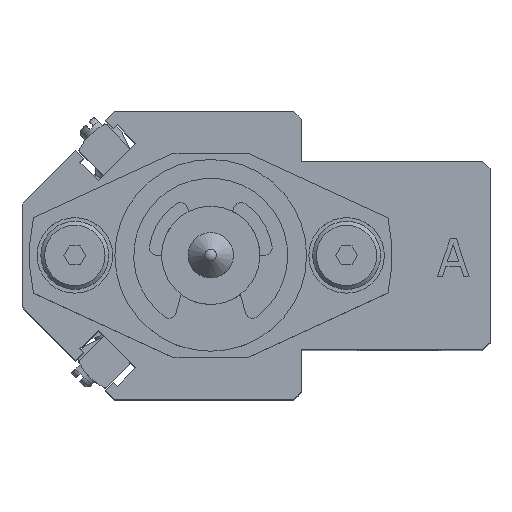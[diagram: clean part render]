
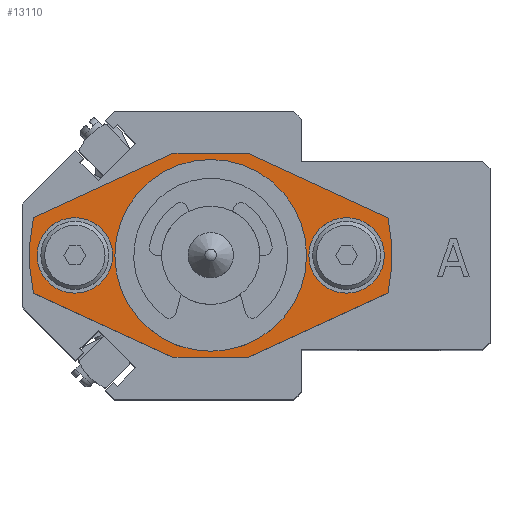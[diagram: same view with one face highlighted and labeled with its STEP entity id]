
A CAD part, top view. The second image highlights one B-rep face of the part: STEP entity #13110.
In plain terms, the highlighted planar face has unit normal (0, 0, 1).
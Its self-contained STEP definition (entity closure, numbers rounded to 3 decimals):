
#360=FACE_BOUND('',#4801,.T.);
#361=FACE_BOUND('',#4802,.T.);
#362=FACE_BOUND('',#4803,.T.);
#1540=LINE('',#21577,#2923);
#1547=LINE('',#21594,#2930);
#1548=LINE('',#21597,#2931);
#1549=LINE('',#21598,#2932);
#1550=LINE('',#21600,#2933);
#1551=LINE('',#21601,#2934);
#2923=VECTOR('',#17486,10.);
#2930=VECTOR('',#17501,10.);
#2931=VECTOR('',#17504,10.);
#2932=VECTOR('',#17505,10.);
#2933=VECTOR('',#17506,10.);
#2934=VECTOR('',#17507,10.);
#3406=CIRCLE('',#14374,10.5);
#3407=CIRCLE('',#14375,10.5);
#3414=CIRCLE('',#14386,24.);
#3416=CIRCLE('',#14389,24.);
#3419=CIRCLE('',#14396,5.);
#3420=CIRCLE('',#14397,5.);
#3421=CIRCLE('',#14398,5.);
#3422=CIRCLE('',#14399,5.);
#4107=FACE_OUTER_BOUND('',#4800,.T.);
#4800=EDGE_LOOP('',(#11017,#11018,#11019,#11020,#11021,#11022,#11023,#11024));
#4801=EDGE_LOOP('',(#11025,#11026));
#4802=EDGE_LOOP('',(#11027,#11028));
#4803=EDGE_LOOP('',(#11029,#11030));
#5968=VERTEX_POINT('',#21535);
#5969=VERTEX_POINT('',#21537);
#5977=VERTEX_POINT('',#21558);
#5978=VERTEX_POINT('',#21560);
#5981=VERTEX_POINT('',#21567);
#5982=VERTEX_POINT('',#21569);
#5984=VERTEX_POINT('',#21575);
#5990=VERTEX_POINT('',#21592);
#5991=VERTEX_POINT('',#21596);
#5992=VERTEX_POINT('',#21599);
#5993=VERTEX_POINT('',#21602);
#5994=VERTEX_POINT('',#21603);
#5995=VERTEX_POINT('',#21606);
#5996=VERTEX_POINT('',#21607);
#7704=EDGE_CURVE('',#5969,#5968,#3406,.T.);
#7705=EDGE_CURVE('',#5968,#5969,#3407,.T.);
#7714=EDGE_CURVE('',#5978,#5977,#3414,.T.);
#7718=EDGE_CURVE('',#5982,#5981,#3416,.T.);
#7722=EDGE_CURVE('',#5977,#5984,#1540,.T.);
#7731=EDGE_CURVE('',#5981,#5990,#1547,.T.);
#7732=EDGE_CURVE('',#5984,#5991,#1548,.T.);
#7733=EDGE_CURVE('',#5991,#5982,#1549,.T.);
#7734=EDGE_CURVE('',#5990,#5992,#1550,.T.);
#7735=EDGE_CURVE('',#5992,#5978,#1551,.T.);
#7736=EDGE_CURVE('',#5993,#5994,#3419,.T.);
#7737=EDGE_CURVE('',#5994,#5993,#3420,.T.);
#7738=EDGE_CURVE('',#5995,#5996,#3421,.T.);
#7739=EDGE_CURVE('',#5996,#5995,#3422,.T.);
#11017=ORIENTED_EDGE('',*,*,#7714,.T.);
#11018=ORIENTED_EDGE('',*,*,#7722,.T.);
#11019=ORIENTED_EDGE('',*,*,#7732,.T.);
#11020=ORIENTED_EDGE('',*,*,#7733,.T.);
#11021=ORIENTED_EDGE('',*,*,#7718,.T.);
#11022=ORIENTED_EDGE('',*,*,#7731,.T.);
#11023=ORIENTED_EDGE('',*,*,#7734,.T.);
#11024=ORIENTED_EDGE('',*,*,#7735,.T.);
#11025=ORIENTED_EDGE('',*,*,#7704,.T.);
#11026=ORIENTED_EDGE('',*,*,#7705,.T.);
#11027=ORIENTED_EDGE('',*,*,#7736,.T.);
#11028=ORIENTED_EDGE('',*,*,#7737,.T.);
#11029=ORIENTED_EDGE('',*,*,#7738,.T.);
#11030=ORIENTED_EDGE('',*,*,#7739,.T.);
#12306=PLANE('',#14395);
#13110=ADVANCED_FACE('',(#4107,#360,#361,#362),#12306,.T.);
#14374=AXIS2_PLACEMENT_3D('',#21538,#17445,#17446);
#14375=AXIS2_PLACEMENT_3D('',#21539,#17447,#17448);
#14386=AXIS2_PLACEMENT_3D('',#21561,#17471,#17472);
#14389=AXIS2_PLACEMENT_3D('',#21570,#17479,#17480);
#14395=AXIS2_PLACEMENT_3D('',#21595,#17502,#17503);
#14396=AXIS2_PLACEMENT_3D('',#21604,#17508,#17509);
#14397=AXIS2_PLACEMENT_3D('',#21605,#17510,#17511);
#14398=AXIS2_PLACEMENT_3D('',#21608,#17512,#17513);
#14399=AXIS2_PLACEMENT_3D('',#21609,#17514,#17515);
#17445=DIRECTION('center_axis',(0.,0.,-1.));
#17446=DIRECTION('ref_axis',(1.,0.,0.));
#17447=DIRECTION('center_axis',(0.,0.,-1.));
#17448=DIRECTION('ref_axis',(1.,0.,0.));
#17471=DIRECTION('center_axis',(0.,0.,1.));
#17472=DIRECTION('ref_axis',(0.978,-0.208,0.));
#17479=DIRECTION('center_axis',(0.,0.,1.));
#17480=DIRECTION('ref_axis',(-0.978,0.208,0.));
#17486=DIRECTION('',(0.908,-0.418,0.));
#17501=DIRECTION('',(-0.908,0.418,0.));
#17502=DIRECTION('center_axis',(0.,0.,1.));
#17503=DIRECTION('ref_axis',(1.,0.,0.));
#17504=DIRECTION('',(1.,0.,0.));
#17505=DIRECTION('',(0.908,0.418,0.));
#17506=DIRECTION('',(-1.,0.,0.));
#17507=DIRECTION('',(-0.908,-0.418,0.));
#17508=DIRECTION('center_axis',(0.,0.,-1.));
#17509=DIRECTION('ref_axis',(1.,0.,0.));
#17510=DIRECTION('center_axis',(0.,0.,-1.));
#17511=DIRECTION('ref_axis',(1.,0.,0.));
#17512=DIRECTION('center_axis',(0.,0.,-1.));
#17513=DIRECTION('ref_axis',(1.,0.,0.));
#17514=DIRECTION('center_axis',(0.,0.,-1.));
#17515=DIRECTION('ref_axis',(1.,0.,0.));
#21535=CARTESIAN_POINT('',(-10.5,0.,6.));
#21537=CARTESIAN_POINT('',(10.5,0.,6.));
#21538=CARTESIAN_POINT('Origin',(0.,0.,6.));
#21539=CARTESIAN_POINT('Origin',(0.,0.,6.));
#21558=CARTESIAN_POINT('',(-23.473,-5.001,6.));
#21560=CARTESIAN_POINT('',(-23.473,5.001,6.));
#21561=CARTESIAN_POINT('Origin',(0.,0.,6.));
#21567=CARTESIAN_POINT('',(23.473,5.001,6.));
#21569=CARTESIAN_POINT('',(23.473,-5.001,6.));
#21570=CARTESIAN_POINT('Origin',(0.,0.,6.));
#21575=CARTESIAN_POINT('',(-5.,-13.5,6.));
#21577=CARTESIAN_POINT('',(-15.7,-8.578,6.));
#21592=CARTESIAN_POINT('',(5.,13.5,6.));
#21594=CARTESIAN_POINT('',(15.7,8.578,6.));
#21595=CARTESIAN_POINT('Origin',(0.,0.,6.));
#21596=CARTESIAN_POINT('',(5.,-13.5,6.));
#21597=CARTESIAN_POINT('',(25.4,-13.5,6.));
#21598=CARTESIAN_POINT('',(15.7,-8.578,6.));
#21599=CARTESIAN_POINT('',(-5.,13.5,6.));
#21600=CARTESIAN_POINT('',(-25.4,13.5,6.));
#21601=CARTESIAN_POINT('',(-15.7,8.578,6.));
#21602=CARTESIAN_POINT('',(-13.,0.,6.));
#21603=CARTESIAN_POINT('',(-23.,0.,6.));
#21604=CARTESIAN_POINT('Origin',(-18.,0.,6.));
#21605=CARTESIAN_POINT('Origin',(-18.,0.,6.));
#21606=CARTESIAN_POINT('',(23.,0.,6.));
#21607=CARTESIAN_POINT('',(13.,0.,6.));
#21608=CARTESIAN_POINT('Origin',(18.,0.,6.));
#21609=CARTESIAN_POINT('Origin',(18.,0.,6.));
